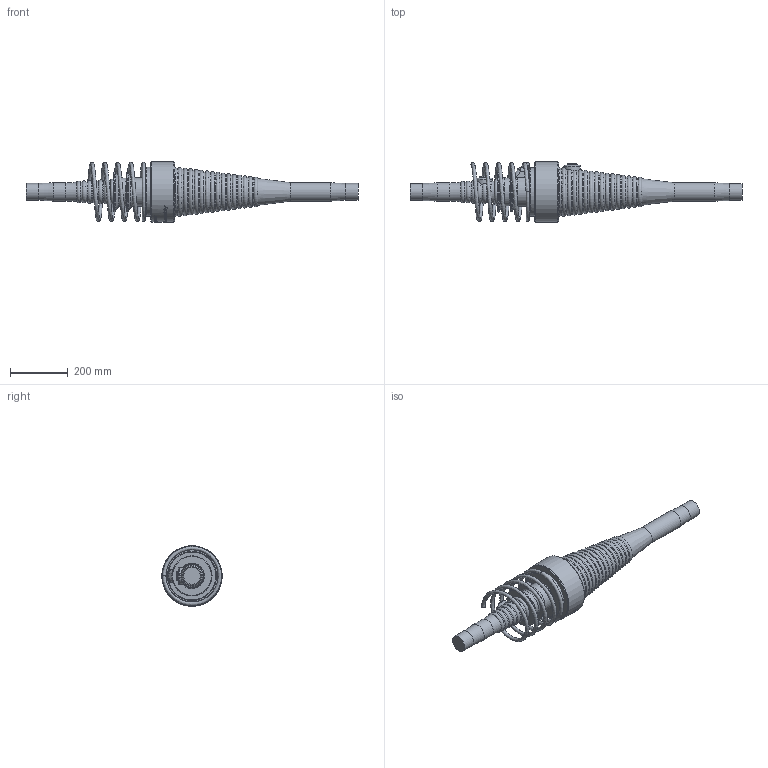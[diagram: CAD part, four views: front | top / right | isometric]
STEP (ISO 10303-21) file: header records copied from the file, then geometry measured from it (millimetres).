
FILE_DESCRIPTION(/* description */ (''),/* implementation_level */ '2;1');
FILE_NAME(/* name */ 'BBR VT CONA CMI BT 706_Couler K Assembly_CS-43,35_Helix.stp',/* time_stamp */ '2024-11-20T14:41:32+01:00',/* author */ ('tk'),/* organization */ (''),/* preprocessor_version */ 'ST-DEVELOPER v20',/* originating_system */ 'Autodesk Inventor 2024',/* authorisation */ '');
FILE_SCHEMA (('AUTOMOTIVE_DESIGN { 1 0 10303 214 3 1 1 }'));
Products named in the file (1): BBR VT CONA CMI BT 706_Couler K Assembly_CS-43,35_Helix
Bounding box: 1153 x 209.2 x 209.8 mm (x, y, z)
Volume: 11346453.9 mm3; surface area: 568571.8 mm2
Topology: 2 solids, 2 shells, 954 faces, 2494 edges, 1614 vertices
Faces by surface type: bspline 381, plane 342, cylinder 93, torus 89, cone 25, sphere 24
Full cylindrical faces by diameter (mm): 34 x2, 57 x2, 59 x2, 64 x2, 133.801 x1, 139.387 x1, 170 x1, 203 x1, 207 x1, 210 x1
Entity records: 41363 total; most frequent: CARTESIAN_POINT 19529, ORIENTED_EDGE 4976, DIRECTION 3630, EDGE_CURVE 2488, VERTEX_POINT 1614, AXIS2_PLACEMENT_3D 1333, EDGE_LOOP 1032, LINE 964
